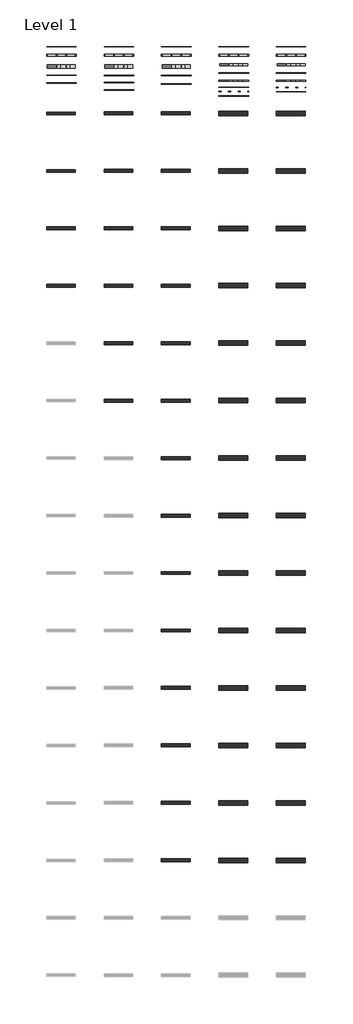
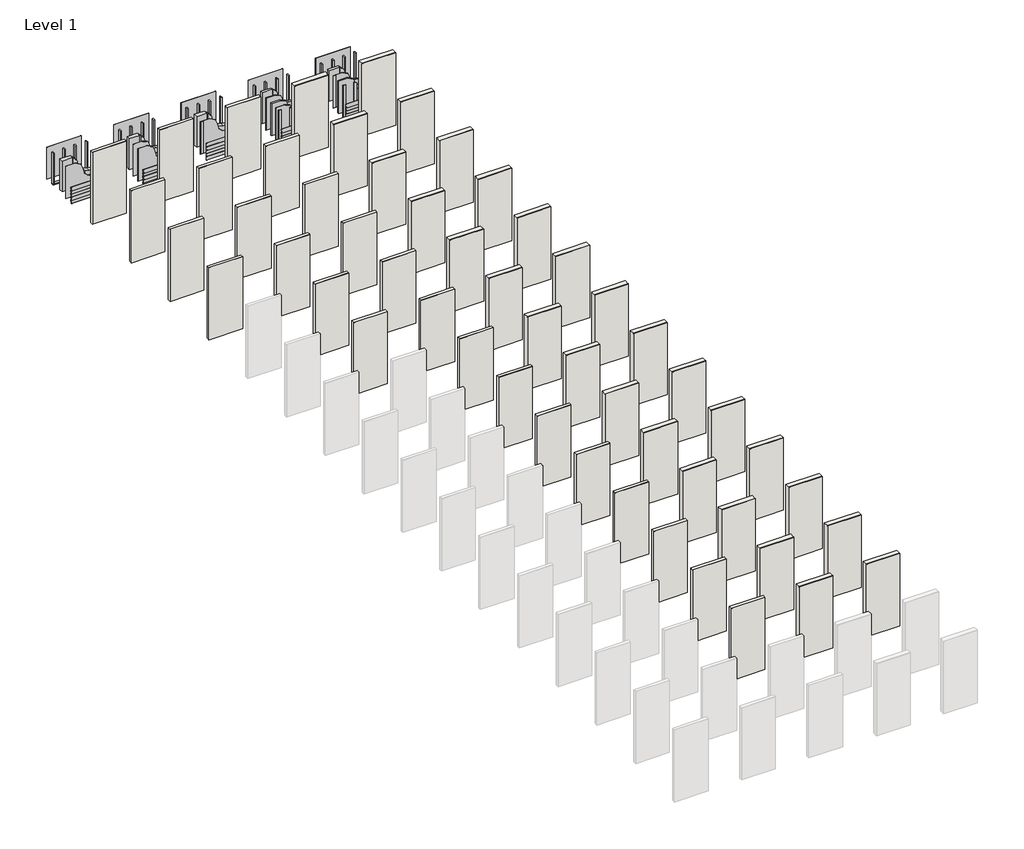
# One storey, part 2 of 2: 52 walls, 33 proxies.
"""IFC4 building model written with IfcOpenShell, lengths in millimetres."""

from ifc_helpers import new_model, si_unit, frame, origin, place, context, project, spatial, polyline, outline, extrude, transform, mapped, element, save
from components import drywall_drywall_9ad1a81a, insulation_insulation_886ea66a, insulation1_insulation_c7675874, insulation2_insulation_0980dc73, insulation3_insulation_35de20be, insulation4_insulation_4921b148, siding_siding_1389b54d, siding1_siding_c6f08992, siding2_siding_21e39ed7, siding3_siding_c55cce45, siding4_siding_1c0db46d, wrb_wrb_ac3679c3, wrb1_wrb_f76ab0a9, wrb10_wrb_b7e937df, wrb11_wrb_521c71ec, wrb12_wrb_24edb861, wrb2_wrb_4205755c, wrb4_wrb_b7f00702, wrb6_wrb_b78c85d5, wrb7_wrb_41caa409, wood_framing_wood_framing_a479036c, wood_framing1_wood_framing_6a745cfe, wood_framing2_wood_framing_20de2fae

model = new_model("IFC4")

# Units and contexts
model_context = context("Model", 3, world=origin())
ifc_project = project(units=[si_unit("LENGTHUNIT", "METRE", prefix="MILLI")], contexts=[model_context])

# Site, building, storey
site = spatial("IfcSite", under=ifc_project)
building = spatial("IfcBuilding", under=site)
storey = spatial("IfcBuildingStorey", under=building, Name="Level 1", Elevation=0.0)

# Proxies
placement = place(None, origin())
drywall_drywall_shape = drywall_drywall_9ad1a81a(model_context)
element("IfcBuildingElementProxy", 1, Name="Drywall : Drywall", ObjectType="Drywall : Drywall", at=placement, inside=storey, context=model_context, shape_type="MappedRepresentation", body=[
    mapped(drywall_drywall_shape, transform((-5985.2651148, 30930.9655791, 0.0), x_axis=(1.0, 0.0, 0.0), y_axis=(0.0, 1.0, 0.0), z_axis=(0.0, 0.0, 1.0))),
])
element("IfcBuildingElementProxy", 2, Name="Drywall1 : Drywall", ObjectType="Drywall1 : Drywall", at=placement, inside=storey, context=model_context, shape_type="MappedRepresentation", body=[
    mapped(drywall_drywall_shape, transform((-3546.8651148, 30930.9655791, 0.0), x_axis=(1.0, 0.0, 0.0), y_axis=(0.0, 1.0, 0.0), z_axis=(0.0, 0.0, 1.0))),
])
element("IfcBuildingElementProxy", 3, Name="Drywall2 : Drywall", ObjectType="Drywall2 : Drywall", at=placement, inside=storey, context=model_context, shape_type="MappedRepresentation", body=[
    mapped(drywall_drywall_shape, transform((1329.9348852, 30930.9655791, 0.0), x_axis=(1.0, 0.0, 0.0), y_axis=(0.0, 1.0, 0.0), z_axis=(0.0, 0.0, 1.0))),
])
element("IfcBuildingElementProxy", 4, Name="Drywall3 : Drywall", ObjectType="Drywall3 : Drywall", at=placement, inside=storey, context=model_context, shape_type="MappedRepresentation", body=[
    mapped(drywall_drywall_shape, transform((3768.3348852, 30930.9655791, 0.0), x_axis=(1.0, 0.0, 0.0), y_axis=(0.0, 1.0, 0.0), z_axis=(0.0, 0.0, 1.0))),
])
element("IfcBuildingElementProxy", 5, Name="Drywall4 : Drywall", ObjectType="Drywall4 : Drywall", at=placement, inside=storey, context=model_context, shape_type="MappedRepresentation", body=[
    mapped(drywall_drywall_shape, transform((-1108.4651148, 30930.9655791, 0.0), x_axis=(1.0, 0.0, 0.0), y_axis=(0.0, 1.0, 0.0), z_axis=(0.0, 0.0, 1.0))),
])
insulation_insulation_shape = insulation_insulation_886ea66a(model_context)
element("IfcBuildingElementProxy", 6, Name="Insulation : Insulation", ObjectType="Insulation : Insulation", at=placement, inside=storey, context=model_context, shape_type="MappedRepresentation", body=[
    mapped(insulation_insulation_shape, transform((0.0, 0.0, 0.0), x_axis=(1.0, 0.0, 0.0), y_axis=(0.0, 1.0, 0.0), z_axis=(0.0, 0.0, 1.0))),
])
insulation1_insulation_shape = insulation1_insulation_c7675874(model_context)
element("IfcBuildingElementProxy", 7, Name="Insulation1 : Insulation", ObjectType="Insulation1 : Insulation", at=placement, inside=storey, context=model_context, shape_type="MappedRepresentation", body=[
    mapped(insulation1_insulation_shape, transform((0.0, 0.0, 0.0), x_axis=(1.0, 0.0, 0.0), y_axis=(0.0, 1.0, 0.0), z_axis=(0.0, 0.0, 1.0))),
])
insulation2_insulation_shape = insulation2_insulation_0980dc73(model_context)
element("IfcBuildingElementProxy", 8, Name="Insulation2 : Insulation", ObjectType="Insulation2 : Insulation", at=placement, inside=storey, context=model_context, shape_type="MappedRepresentation", body=[
    mapped(insulation2_insulation_shape, transform((0.0, 0.0, 0.0), x_axis=(1.0, 0.0, 0.0), y_axis=(0.0, 1.0, 0.0), z_axis=(0.0, 0.0, 1.0))),
])
insulation3_insulation_shape = insulation3_insulation_35de20be(model_context)
element("IfcBuildingElementProxy", 9, Name="Insulation3 : Insulation", ObjectType="Insulation3 : Insulation", at=placement, inside=storey, context=model_context, shape_type="MappedRepresentation", body=[
    mapped(insulation3_insulation_shape, transform((0.0, 0.0, 0.0), x_axis=(1.0, 0.0, 0.0), y_axis=(0.0, 1.0, 0.0), z_axis=(0.0, 0.0, 1.0))),
])
insulation4_insulation_shape = insulation4_insulation_4921b148(model_context)
element("IfcBuildingElementProxy", 10, Name="Insulation4 : Insulation", ObjectType="Insulation4 : Insulation", at=placement, inside=storey, context=model_context, shape_type="MappedRepresentation", body=[
    mapped(insulation4_insulation_shape, transform((0.0, 0.0, 0.0), x_axis=(1.0, 0.0, 0.0), y_axis=(0.0, 1.0, 0.0), z_axis=(0.0, 0.0, 1.0))),
])
siding_siding_shape = siding_siding_1389b54d(model_context)
element("IfcBuildingElementProxy", 11, Name="Siding : Siding", ObjectType="Siding : Siding", at=placement, inside=storey, context=model_context, shape_type="MappedRepresentation", body=[
    mapped(siding_siding_shape, transform((0.0, 0.0, 0.0), x_axis=(1.0, 0.0, 0.0), y_axis=(0.0, 1.0, 0.0), z_axis=(0.0, 0.0, 1.0))),
])
siding1_siding_shape = siding1_siding_c6f08992(model_context)
element("IfcBuildingElementProxy", 12, Name="Siding1 : Siding", ObjectType="Siding1 : Siding", at=placement, inside=storey, context=model_context, shape_type="MappedRepresentation", body=[
    mapped(siding1_siding_shape, transform((0.0, -304.8, 0.0), x_axis=(1.0, 0.0, 0.0), y_axis=(0.0, 1.0, 0.0), z_axis=(0.0, 0.0, 1.0))),
])
siding2_siding_shape = siding2_siding_21e39ed7(model_context)
element("IfcBuildingElementProxy", 13, Name="Siding2 : Siding", ObjectType="Siding2 : Siding", at=placement, inside=storey, context=model_context, shape_type="MappedRepresentation", body=[
    mapped(siding2_siding_shape, transform((0.0, -558.8, 0.0), x_axis=(1.0, 0.0, 0.0), y_axis=(0.0, 1.0, 0.0), z_axis=(0.0, 0.0, 1.0))),
])
siding3_siding_shape = siding3_siding_c55cce45(model_context)
element("IfcBuildingElementProxy", 14, Name="Siding3 : Siding", ObjectType="Siding3 : Siding", at=placement, inside=storey, context=model_context, shape_type="MappedRepresentation", body=[
    mapped(siding3_siding_shape, transform((0.0, -381.0, 0.0), x_axis=(1.0, 0.0, 0.0), y_axis=(0.0, 1.0, 0.0), z_axis=(0.0, 0.0, 1.0))),
])
siding4_siding_shape = siding4_siding_1c0db46d(model_context)
element("IfcBuildingElementProxy", 15, Name="Siding4 : Siding", ObjectType="Siding4 : Siding", at=placement, inside=storey, context=model_context, shape_type="MappedRepresentation", body=[
    mapped(siding4_siding_shape, transform((0.0, -50.8, 0.0), x_axis=(1.0, 0.0, 0.0), y_axis=(0.0, 1.0, 0.0), z_axis=(0.0, 0.0, 1.0))),
])
wrb_wrb_shape = wrb_wrb_ac3679c3(model_context)
element("IfcBuildingElementProxy", 16, Name="WRB : WRB", ObjectType="WRB : WRB", at=placement, inside=storey, context=model_context, shape_type="MappedRepresentation", body=[
    mapped(wrb_wrb_shape, transform((-5985.2651148, 30930.9655791, 0.0), x_axis=(1.0, 0.0, 0.0), y_axis=(0.0, 1.0, 0.0), z_axis=(0.0, 0.0, 1.0))),
])
wrb1_wrb_shape = wrb1_wrb_f76ab0a9(model_context)
element("IfcBuildingElementProxy", 17, Name="WRB1 : WRB", ObjectType="WRB1 : WRB", at=placement, inside=storey, context=model_context, shape_type="MappedRepresentation", body=[
    mapped(wrb1_wrb_shape, transform((-5985.2651148, 30930.9655791, 0.0), x_axis=(1.0, 0.0, 0.0), y_axis=(0.0, 1.0, 0.0), z_axis=(0.0, 0.0, 1.0))),
])
wrb10_wrb_shape = wrb10_wrb_b7e937df(model_context)
element("IfcBuildingElementProxy", 18, Name="WRB10 : WRB", ObjectType="WRB10 : WRB", at=placement, inside=storey, context=model_context, shape_type="MappedRepresentation", body=[
    mapped(wrb10_wrb_shape, transform((-1108.4651148, 30880.1655791, 0.0), x_axis=(1.0, 0.0, 0.0), y_axis=(0.0, 1.0, 0.0), z_axis=(0.0, 0.0, 1.0))),
])
wrb11_wrb_shape = wrb11_wrb_521c71ec(model_context)
element("IfcBuildingElementProxy", 19, Name="WRB11 : WRB", ObjectType="WRB11 : WRB", at=placement, inside=storey, context=model_context, shape_type="MappedRepresentation", body=[
    mapped(wrb11_wrb_shape, transform((-3546.8651148, 30930.9655791, 0.0), x_axis=(1.0, 0.0, 0.0), y_axis=(0.0, 1.0, 0.0), z_axis=(0.0, 0.0, 1.0))),
])
wrb12_wrb_shape = wrb12_wrb_24edb861(model_context)
element("IfcBuildingElementProxy", 20, Name="WRB12 : WRB", ObjectType="WRB12 : WRB", at=placement, inside=storey, context=model_context, shape_type="MappedRepresentation", body=[
    mapped(wrb12_wrb_shape, transform((-1108.4651148, 30981.7655791, 0.0), x_axis=(1.0, 0.0, 0.0), y_axis=(0.0, 1.0, 0.0), z_axis=(0.0, 0.0, 1.0))),
])
wrb2_wrb_shape = wrb2_wrb_4205755c(model_context)
element("IfcBuildingElementProxy", 21, Name="WRB2 : WRB", ObjectType="WRB2 : WRB", at=placement, inside=storey, context=model_context, shape_type="MappedRepresentation", body=[
    mapped(wrb2_wrb_shape, transform((-5985.2651148, 30930.9655791, 0.0), x_axis=(1.0, 0.0, 0.0), y_axis=(0.0, 1.0, 0.0), z_axis=(0.0, 0.0, 1.0))),
])
element("IfcBuildingElementProxy", 22, Name="WRB3 : WRB", ObjectType="WRB3 : WRB", at=placement, inside=storey, context=model_context, shape_type="MappedRepresentation", body=[
    mapped(wrb1_wrb_shape, transform((-1108.4651148, 30727.7655791, 0.0), x_axis=(1.0, 0.0, 0.0), y_axis=(0.0, 1.0, 0.0), z_axis=(0.0, 0.0, 1.0))),
])
wrb4_wrb_shape = wrb4_wrb_b7f00702(model_context)
element("IfcBuildingElementProxy", 23, Name="WRB4 : WRB", ObjectType="WRB4 : WRB", at=placement, inside=storey, context=model_context, shape_type="MappedRepresentation", body=[
    mapped(wrb4_wrb_shape, transform((-3546.8651148, 30930.9655791, 0.0), x_axis=(1.0, 0.0, 0.0), y_axis=(0.0, 1.0, 0.0), z_axis=(0.0, 0.0, 1.0))),
])
element("IfcBuildingElementProxy", 24, Name="WRB5 : WRB", ObjectType="WRB5 : WRB", at=placement, inside=storey, context=model_context, shape_type="MappedRepresentation", body=[
    mapped(wrb10_wrb_shape, transform((-3546.8651148, 30702.3655791, 0.0), x_axis=(1.0, 0.0, 0.0), y_axis=(0.0, 1.0, 0.0), z_axis=(0.0, 0.0, 1.0))),
])
wrb6_wrb_shape = wrb6_wrb_b78c85d5(model_context)
element("IfcBuildingElementProxy", 25, Name="WRB6 : WRB", ObjectType="WRB6 : WRB", at=placement, inside=storey, context=model_context, shape_type="MappedRepresentation", body=[
    mapped(wrb6_wrb_shape, transform((-3546.8651148, 30930.9655791, 0.0), x_axis=(1.0, 0.0, 0.0), y_axis=(0.0, 1.0, 0.0), z_axis=(0.0, 0.0, 1.0))),
])
wrb7_wrb_shape = wrb7_wrb_41caa409(model_context)
element("IfcBuildingElementProxy", 26, Name="WRB7 : WRB", ObjectType="WRB7 : WRB", at=placement, inside=storey, context=model_context, shape_type="MappedRepresentation", body=[
    mapped(wrb7_wrb_shape, transform((-5985.2651148, 30880.1655791, 0.0), x_axis=(1.0, 0.0, 0.0), y_axis=(0.0, 1.0, 0.0), z_axis=(0.0, 0.0, 1.0))),
])
element("IfcBuildingElementProxy", 27, Name="WRB8 : WRB", ObjectType="WRB8 : WRB", at=placement, inside=storey, context=model_context, shape_type="MappedRepresentation", body=[
    mapped(wrb12_wrb_shape, transform((-5985.2651148, 30880.1655791, 0.0), x_axis=(1.0, 0.0, 0.0), y_axis=(0.0, 1.0, 0.0), z_axis=(0.0, 0.0, 1.0))),
])
element("IfcBuildingElementProxy", 28, Name="WRB9 : WRB", ObjectType="WRB9 : WRB", at=placement, inside=storey, context=model_context, shape_type="MappedRepresentation", body=[
    mapped(wrb7_wrb_shape, transform((-1108.4651148, 30981.7655791, 0.0), x_axis=(1.0, 0.0, 0.0), y_axis=(0.0, 1.0, 0.0), z_axis=(0.0, 0.0, 1.0))),
])
wood_framing_wood_framing_shape = wood_framing_wood_framing_a479036c(model_context)
element("IfcBuildingElementProxy", 29, Name="Wood Framing : Wood Framing", ObjectType="Wood Framing : Wood Framing", at=placement, inside=storey, context=model_context, shape_type="MappedRepresentation", body=[
    mapped(wood_framing_wood_framing_shape, transform((0.0, 0.0, 0.0), x_axis=(1.0, 0.0, 0.0), y_axis=(0.0, 1.0, 0.0), z_axis=(0.0, 0.0, 1.0))),
])
wood_framing1_wood_framing_shape = wood_framing1_wood_framing_6a745cfe(model_context)
element("IfcBuildingElementProxy", 30, Name="Wood Framing1 : Wood Framing", ObjectType="Wood Framing1 : Wood Framing", at=placement, inside=storey, context=model_context, shape_type="MappedRepresentation", body=[
    mapped(wood_framing1_wood_framing_shape, transform((0.0, 0.0, 0.0), x_axis=(1.0, 0.0, 0.0), y_axis=(0.0, 1.0, 0.0), z_axis=(0.0, 0.0, 1.0))),
])
wood_framing2_wood_framing_shape = wood_framing2_wood_framing_20de2fae(model_context)
element("IfcBuildingElementProxy", 31, Name="Wood Framing2 : Wood Framing", ObjectType="Wood Framing2 : Wood Framing", at=placement, inside=storey, context=model_context, shape_type="MappedRepresentation", body=[
    mapped(wood_framing2_wood_framing_shape, transform((-3546.8651148, 30930.9655791, 0.0), x_axis=(1.0, 0.0, 0.0), y_axis=(0.0, 1.0, 0.0), z_axis=(0.0, 0.0, 1.0))),
])
element("IfcBuildingElementProxy", 32, Name="Wood Framing3 : Wood Framing", ObjectType="Wood Framing3 : Wood Framing", at=placement, inside=storey, context=model_context, shape_type="MappedRepresentation", body=[
    mapped(wood_framing2_wood_framing_shape, transform((-1108.4651148, 30930.9655791, 0.0), x_axis=(1.0, 0.0, 0.0), y_axis=(0.0, 1.0, 0.0), z_axis=(0.0, 0.0, 1.0))),
])
element("IfcBuildingElementProxy", 33, Name="Wood Framing4 : Wood Framing", ObjectType="Wood Framing4 : Wood Framing", at=placement, inside=storey, context=model_context, shape_type="MappedRepresentation", body=[
    mapped(wood_framing1_wood_framing_shape, transform((2438.4, 0.0, 0.0), x_axis=(1.0, 0.0, 0.0), y_axis=(0.0, 1.0, 0.0), z_axis=(0.0, 0.0, 1.0))),
])

# Walls
element("IfcWall", 34, ObjectType="Exterior - 2x4 Direct to Stud - LP SmartSide Lap Siding - 38 Series Cedar Texture Lap (Strand) - 5.84", at=placement, inside=storey, context=model_context, shape_type="SweptSolid", body=[
    extrude(outline(polyline([(32309.1411435, 0.0), (32309.1411435, 2771.775), (32317.1421435, 2771.775), (32418.7421435, 2771.775), (32418.7421435, 0.0), (32317.1421435, 0.0), (32309.1411435, 0.0)])), frame((-5100.4179718, 0.0, 0.0), z_axis=(1.0, 0.0, 0.0), x_axis=(0.0, 1.0, 0.0)), (0.0, 0.0, 1.0), 1219.2),
])
element("IfcWall", 35, ObjectType="Exterior - 2x4 Direct to Stud - LP SmartSide Lap Siding - 38 Series Cedar Texture Lap (Strand) - 6.84", at=placement, inside=storey, context=model_context, shape_type="SweptSolid", body=[
    extrude(outline(polyline([(29870.7411435, 0.0), (29870.7411435, 2771.775), (29878.7421435, 2771.775), (29980.3421435, 2771.775), (29980.3421435, 0.0), (29878.7421435, 0.0), (29870.7411435, 0.0)])), frame((-5100.4179718, 0.0, 0.0), z_axis=(1.0, 0.0, 0.0), x_axis=(0.0, 1.0, 0.0)), (0.0, 0.0, 1.0), 1219.2),
])
element("IfcWall", 36, ObjectType="Exterior - 2x4 Direct to Stud - LP SmartSide Lap Siding - 38 Series Cedar Texture Lap (Strand) - 7.84", at=placement, inside=storey, context=model_context, shape_type="SweptSolid", body=[
    extrude(outline(polyline([(27432.3411435, 0.0), (27432.3411435, 2771.775), (27440.3421435, 2771.775), (27541.9421435, 2771.775), (27541.9421435, 0.0), (27440.3421435, 0.0), (27432.3411435, 0.0)])), frame((-5100.4179718, 0.0, 0.0), z_axis=(1.0, 0.0, 0.0), x_axis=(0.0, 1.0, 0.0)), (0.0, 0.0, 1.0), 1219.2),
])
element("IfcWall", 37, ObjectType="Exterior - 2x4 Direct to Stud - LP SmartSide Lap Siding - 38 Series Cedar Texture Lap (Strand) - 11.84", at=placement, inside=storey, context=model_context, shape_type="SweptSolid", body=[
    extrude(outline(polyline([(24993.9411435, 0.0), (24993.9411435, 2771.775), (25001.9421435, 2771.775), (25103.5421435, 2771.775), (25103.5421435, 0.0), (25001.9421435, 0.0), (24993.9411435, 0.0)])), frame((-5100.4179718, 0.0, 0.0), z_axis=(1.0, 0.0, 0.0), x_axis=(0.0, 1.0, 0.0)), (0.0, 0.0, 1.0), 1219.2),
])
element("IfcWall", 38, ObjectType="Exterior - 2x4 w/WSP - LP SmartSide Lap Siding - 38 Series Cedar Texture Lap (Strand) - 5.84", at=placement, inside=storey, context=model_context, shape_type="SweptSolid", body=[
    extrude(outline(polyline([(32303.5848935, 0.0), (32303.5848935, 2771.775), (32311.5858935, 2771.775), (32424.2983935, 2771.775), (32424.2983935, 0.0), (32311.5858935, 0.0), (32303.5848935, 0.0)])), frame((-2662.0179718, 0.0, 0.0), z_axis=(1.0, 0.0, 0.0), x_axis=(0.0, 1.0, 0.0)), (0.0, 0.0, 1.0), 1219.2),
])
element("IfcWall", 39, ObjectType="Exterior - 2x4 w/WSP - LP SmartSide Lap Siding - 38 Series Cedar Texture Lap (Strand) - 6.84", at=placement, inside=storey, context=model_context, shape_type="SweptSolid", body=[
    extrude(outline(polyline([(29865.1848935, 0.0), (29865.1848935, 2771.775), (29873.1858935, 2771.775), (29985.8983935, 2771.775), (29985.8983935, 0.0), (29873.1858935, 0.0), (29865.1848935, 0.0)])), frame((-2662.0179718, 0.0, 0.0), z_axis=(1.0, 0.0, 0.0), x_axis=(0.0, 1.0, 0.0)), (0.0, 0.0, 1.0), 1219.2),
])
element("IfcWall", 40, ObjectType="Exterior - 2x4 w/WSP - LP SmartSide Lap Siding - 38 Series Cedar Texture Lap (Strand) - 7.84", at=placement, inside=storey, context=model_context, shape_type="SweptSolid", body=[
    extrude(outline(polyline([(27426.7848935, 0.0), (27426.7848935, 2771.775), (27434.7858935, 2771.775), (27547.4983935, 2771.775), (27547.4983935, 0.0), (27434.7858935, 0.0), (27426.7848935, 0.0)])), frame((-2662.0179718, 0.0, 0.0), z_axis=(1.0, 0.0, 0.0), x_axis=(0.0, 1.0, 0.0)), (0.0, 0.0, 1.0), 1219.2),
])
element("IfcWall", 41, ObjectType="Exterior - 2x4 w/WSP - LP SmartSide Lap Siding - 38 Series Cedar Texture Lap (Strand) - 11.84", at=placement, inside=storey, context=model_context, shape_type="SweptSolid", body=[
    extrude(outline(polyline([(24988.3848935, 0.0), (24988.3848935, 2771.775), (24996.3858935, 2771.775), (25109.0983935, 2771.775), (25109.0983935, 0.0), (24996.3858935, 0.0), (24988.3848935, 0.0)])), frame((-2662.0179718, 0.0, 0.0), z_axis=(1.0, 0.0, 0.0), x_axis=(0.0, 1.0, 0.0)), (0.0, 0.0, 1.0), 1219.2),
])
element("IfcWall", 42, ObjectType="Exterior - 2x4 w/WSP - LP SmartSide Lap Siding - 76 Series Cedar Texture Lap (Strand) - 5.84", at=placement, inside=storey, context=model_context, shape_type="SweptSolid", body=[
    extrude(outline(polyline([(22549.2228935, 0.0), (22549.2228935, 2771.775), (22558.7478935, 2771.775), (22671.4603935, 2771.775), (22671.4603935, 0.0), (22558.7478935, 0.0), (22549.2228935, 0.0)])), frame((-2662.0179718, 0.0, 0.0), z_axis=(1.0, 0.0, 0.0), x_axis=(0.0, 1.0, 0.0)), (0.0, 0.0, 1.0), 1219.2),
])
element("IfcWall", 43, ObjectType="Exterior - 2x4 w/WSP - LP SmartSide Lap Siding - 76 Series Cedar Texture Lap (Strand) - 7.84", at=placement, inside=storey, context=model_context, shape_type="SweptSolid", body=[
    extrude(outline(polyline([(20110.8228935, 0.0), (20110.8228935, 2771.775), (20120.3478935, 2771.775), (20233.0603935, 2771.775), (20233.0603935, 0.0), (20120.3478935, 0.0), (20110.8228935, 0.0)])), frame((-2662.0179718, 0.0, 0.0), z_axis=(1.0, 0.0, 0.0), x_axis=(0.0, 1.0, 0.0)), (0.0, 0.0, 1.0), 1219.2),
])
element("IfcWall", 44, ObjectType="Exterior - 2x4 w/Exterior Insulation - LP SmartSide Lap Siding - 38 Series Cedar Texture Lap (Strand) - 5.84", at=placement, inside=storey, context=model_context, shape_type="SweptSolid", body=[
    extrude(outline(polyline([(32268.6598935, 0.0), (32268.6598935, 2771.775), (32276.6608935, 2771.775), (32295.7108935, 2771.775), (32459.2233935, 2771.775), (32459.2233935, 0.0), (32295.7108935, 0.0), (32276.6608935, 0.0), (32268.6598935, 0.0)])), frame((2214.7820282, 0.0, 0.0), z_axis=(1.0, 0.0, 0.0), x_axis=(0.0, 1.0, 0.0)), (0.0, 0.0, 1.0), 1219.2),
])
element("IfcWall", 45, ObjectType="Exterior - 2x4 w/Exterior Insulation - LP SmartSide Lap Siding - 38 Series Cedar Texture Lap (Strand) - 6.84", at=placement, inside=storey, context=model_context, shape_type="SweptSolid", body=[
    extrude(outline(polyline([(29830.2598935, 0.0), (29830.2598935, 2771.775), (29838.2608935, 2771.775), (29857.3108935, 2771.775), (30020.8233935, 2771.775), (30020.8233935, 0.0), (29857.3108935, 0.0), (29838.2608935, 0.0), (29830.2598935, 0.0)])), frame((2214.7820282, 0.0, 0.0), z_axis=(1.0, 0.0, 0.0), x_axis=(0.0, 1.0, 0.0)), (0.0, 0.0, 1.0), 1219.2),
])
element("IfcWall", 46, ObjectType="Exterior - 2x4 w/Exterior Insulation - LP SmartSide Lap Siding - 38 Series Cedar Texture Lap (Strand) - 7.84", at=placement, inside=storey, context=model_context, shape_type="SweptSolid", body=[
    extrude(outline(polyline([(27391.8598935, 0.0), (27391.8598935, 2771.775), (27399.8608935, 2771.775), (27418.9108935, 2771.775), (27582.4233935, 2771.775), (27582.4233935, 0.0), (27418.9108935, 0.0), (27399.8608935, 0.0), (27391.8598935, 0.0)])), frame((2214.7820282, 0.0, 0.0), z_axis=(1.0, 0.0, 0.0), x_axis=(0.0, 1.0, 0.0)), (0.0, 0.0, 1.0), 1219.2),
])
element("IfcWall", 47, ObjectType="Exterior - 2x4 w/Exterior Insulation - LP SmartSide Lap Siding - 38 Series Cedar Texture Lap (Strand) - 11.84", at=placement, inside=storey, context=model_context, shape_type="SweptSolid", body=[
    extrude(outline(polyline([(24953.4598935, 0.0), (24953.4598935, 2771.775), (24961.4608935, 2771.775), (24980.5108935, 2771.775), (25144.0233935, 2771.775), (25144.0233935, 0.0), (24980.5108935, 0.0), (24961.4608935, 0.0), (24953.4598935, 0.0)])), frame((2214.7820282, 0.0, 0.0), z_axis=(1.0, 0.0, 0.0), x_axis=(0.0, 1.0, 0.0)), (0.0, 0.0, 1.0), 1219.2),
])
element("IfcWall", 48, ObjectType="Exterior - 2x4 w/Exterior Insulation - LP SmartSide Lap Siding - 76 Series Cedar Texture Lap (Strand) - 5.84", at=placement, inside=storey, context=model_context, shape_type="SweptSolid", body=[
    extrude(outline(polyline([(22514.2978935, 0.0), (22514.2978935, 2771.775), (22523.8228935, 2771.775), (22542.8728935, 2771.775), (22706.3853935, 2771.775), (22706.3853935, 0.0), (22542.8728935, 0.0), (22523.8228935, 0.0), (22514.2978935, 0.0)])), frame((2214.7820282, 0.0, 0.0), z_axis=(1.0, 0.0, 0.0), x_axis=(0.0, 1.0, 0.0)), (0.0, 0.0, 1.0), 1219.2),
])
element("IfcWall", 49, ObjectType="Exterior - 2x4 w/Exterior Insulation - LP SmartSide Lap Siding - 76 Series Cedar Texture Lap (Strand) - 7.84", at=placement, inside=storey, context=model_context, shape_type="SweptSolid", body=[
    extrude(outline(polyline([(20075.8978935, 0.0), (20075.8978935, 2771.775), (20085.4228935, 2771.775), (20104.4728935, 2771.775), (20267.9853935, 2771.775), (20267.9853935, 0.0), (20104.4728935, 0.0), (20085.4228935, 0.0), (20075.8978935, 0.0)])), frame((2214.7820282, 0.0, 0.0), z_axis=(1.0, 0.0, 0.0), x_axis=(0.0, 1.0, 0.0)), (0.0, 0.0, 1.0), 1219.2),
])
element("IfcWall", 50, ObjectType="Exterior - 2x4 w/Exterior Insulation - LP SmartSide Lap Siding - 76 Series Cedar Texture Lap (Strand) - 11.84", at=placement, inside=storey, context=model_context, shape_type="SweptSolid", body=[
    extrude(outline(polyline([(17637.4978935, 0.0), (17637.4978935, 2771.775), (17647.0228935, 2771.775), (17666.0728935, 2771.775), (17829.5853935, 2771.775), (17829.5853935, 0.0), (17666.0728935, 0.0), (17647.0228935, 0.0), (17637.4978935, 0.0)])), frame((2214.7820282, 0.0, 0.0), z_axis=(1.0, 0.0, 0.0), x_axis=(0.0, 1.0, 0.0)), (0.0, 0.0, 1.0), 1219.2),
])
element("IfcWall", 51, ObjectType="Exterior - 2x4 w/Exterior Insulation - LP SmartSide Lap Siding - 76 Series Cedar Texture Lap (Fiber) - 5.84", at=placement, inside=storey, context=model_context, shape_type="SweptSolid", body=[
    extrude(outline(polyline([(15199.0978935, 0.0), (15199.0978935, 2771.775), (15208.6228935, 2771.775), (15227.6728935, 2771.775), (15391.1853935, 2771.775), (15391.1853935, 0.0), (15227.6728935, 0.0), (15208.6228935, 0.0), (15199.0978935, 0.0)])), frame((2214.7820282, 0.0, 0.0), z_axis=(1.0, 0.0, 0.0), x_axis=(0.0, 1.0, 0.0)), (0.0, 0.0, 1.0), 1219.2),
])
element("IfcWall", 52, ObjectType="Exterior - 2x4 w/Exterior Insulation - LP SmartSide Lap Siding - 76 Series Cedar Texture Lap (Fiber) - 7.84", at=placement, inside=storey, context=model_context, shape_type="SweptSolid", body=[
    extrude(outline(polyline([(12760.6978935, 0.0), (12760.6978935, 2771.775), (12770.2228935, 2771.775), (12789.2728935, 2771.775), (12952.7853935, 2771.775), (12952.7853935, 0.0), (12789.2728935, 0.0), (12770.2228935, 0.0), (12760.6978935, 0.0)])), frame((2214.7820282, 0.0, 0.0), z_axis=(1.0, 0.0, 0.0), x_axis=(0.0, 1.0, 0.0)), (0.0, 0.0, 1.0), 1219.2),
])
element("IfcWall", 53, ObjectType="Exterior - 2x4 w/Exterior Insulation - LP SmartSide Lap Siding - 76 Series Cedar Texture Lap (Fiber) - 9.47", at=placement, inside=storey, context=model_context, shape_type="SweptSolid", body=[
    extrude(outline(polyline([(10322.2978935, 0.0), (10322.2978935, 2771.775), (10331.8228935, 2771.775), (10350.8728935, 2771.775), (10514.3853935, 2771.775), (10514.3853935, 0.0), (10350.8728935, 0.0), (10331.8228935, 0.0), (10322.2978935, 0.0)])), frame((2214.7820282, 0.0, 0.0), z_axis=(1.0, 0.0, 0.0), x_axis=(0.0, 1.0, 0.0)), (0.0, 0.0, 1.0), 1219.2),
])
element("IfcWall", 54, ObjectType="Exterior - 2x4 w/Exterior Insulation - LP SmartSide Lap Siding - 76 Series Cedar Texture Lap (Fiber) - 11.84", at=placement, inside=storey, context=model_context, shape_type="SweptSolid", body=[
    extrude(outline(polyline([(7883.8978935, 0.0), (7883.8978935, 2771.775), (7893.4228935, 2771.775), (7912.4728935, 2771.775), (8075.9853935, 2771.775), (8075.9853935, 0.0), (7912.4728935, 0.0), (7893.4228935, 0.0), (7883.8978935, 0.0)])), frame((2214.7820282, 0.0, 0.0), z_axis=(1.0, 0.0, 0.0), x_axis=(0.0, 1.0, 0.0)), (0.0, 0.0, 1.0), 1219.2),
])
element("IfcWall", 55, ObjectType="Exterior - 2x4 w/Exterior Insulation - LP SmartSide Lap Siding - 76 Series SmartLock Cedar Texture Lap (Strand) - 7.84", at=placement, inside=storey, context=model_context, shape_type="SweptSolid", body=[
    extrude(outline(polyline([(5445.4978935, 0.0), (5445.4978935, 2771.775), (5455.0228935, 2771.775), (5474.0728935, 2771.775), (5637.5853935, 2771.775), (5637.5853935, 0.0), (5474.0728935, 0.0), (5455.0228935, 0.0), (5445.4978935, 0.0)])), frame((2214.7820282, 0.0, 0.0), z_axis=(1.0, 0.0, 0.0), x_axis=(0.0, 1.0, 0.0)), (0.0, 0.0, 1.0), 1219.2),
])
element("IfcWall", 56, ObjectType="Exterior - 2x4 w/Exterior Insulation - LP SmartSide Lap Siding - 120 Series Self-Aligning Cedar Texture Lap (Fiber) - 7.92", at=placement, inside=storey, context=model_context, shape_type="SweptSolid", body=[
    extrude(outline(polyline([(3006.1453935, 0.0), (3006.1453935, 2771.775), (3017.5753935, 2771.775), (3036.6253935, 2771.775), (3200.1378935, 2771.775), (3200.1378935, 0.0), (3036.6253935, 0.0), (3017.5753935, 0.0), (3006.1453935, 0.0)])), frame((2214.7820282, 0.0, 0.0), z_axis=(1.0, 0.0, 0.0), x_axis=(0.0, 1.0, 0.0)), (0.0, 0.0, 1.0), 1219.2),
])
element("IfcWall", 57, ObjectType="Exterior - 2x4 w/Exterior Insulation - LP SmartSide Lap Siding - 38 Series Smooth Finish Lap (Strand) - 5.84", at=placement, inside=storey, context=model_context, shape_type="SweptSolid", body=[
    extrude(outline(polyline([(569.4598935, 0.0), (569.4598935, 2771.775), (577.4608935, 2771.775), (596.5108935, 2771.775), (760.0233935, 2771.775), (760.0233935, 0.0), (596.5108935, 0.0), (577.4608935, 0.0), (569.4598935, 0.0)])), frame((2214.7820282, 0.0, 0.0), z_axis=(1.0, 0.0, 0.0), x_axis=(0.0, 1.0, 0.0)), (0.0, 0.0, 1.0), 1219.2),
])
element("IfcWall", 58, ObjectType="Exterior - 2x4 w/Exterior Insulation & WeatherLogic® - LP SmartSide Lap Siding - 38 Series Cedar Texture Lap (Strand) - 5.84", at=placement, inside=storey, context=model_context, shape_type="SweptSolid", body=[
    extrude(outline(polyline([(32268.6598935, 0.0), (32268.6598935, 2771.775), (32276.6608935, 2771.775), (32295.7108935, 2771.775), (32459.2233935, 2771.775), (32459.2233935, 0.0), (32295.7108935, 0.0), (32276.6608935, 0.0), (32268.6598935, 0.0)])), frame((4653.1820282, 0.0, 0.0), z_axis=(1.0, 0.0, 0.0), x_axis=(0.0, 1.0, 0.0)), (0.0, 0.0, 1.0), 1219.2),
])
element("IfcWall", 59, ObjectType="Exterior - 2x4 w/Exterior Insulation & WeatherLogic® - LP SmartSide Lap Siding - 38 Series Cedar Texture Lap (Strand) - 6.84", at=placement, inside=storey, context=model_context, shape_type="SweptSolid", body=[
    extrude(outline(polyline([(29830.2598935, 0.0), (29830.2598935, 2771.775), (29838.2608935, 2771.775), (29857.3108935, 2771.775), (30020.8233935, 2771.775), (30020.8233935, 0.0), (29857.3108935, 0.0), (29838.2608935, 0.0), (29830.2598935, 0.0)])), frame((4653.1820282, 0.0, 0.0), z_axis=(1.0, 0.0, 0.0), x_axis=(0.0, 1.0, 0.0)), (0.0, 0.0, 1.0), 1219.2),
])
element("IfcWall", 60, ObjectType="Exterior - 2x4 w/Exterior Insulation & WeatherLogic® - LP SmartSide Lap Siding - 38 Series Cedar Texture Lap (Strand) - 7.84", at=placement, inside=storey, context=model_context, shape_type="SweptSolid", body=[
    extrude(outline(polyline([(27391.8598935, 0.0), (27391.8598935, 2771.775), (27399.8608935, 2771.775), (27418.9108935, 2771.775), (27582.4233935, 2771.775), (27582.4233935, 0.0), (27418.9108935, 0.0), (27399.8608935, 0.0), (27391.8598935, 0.0)])), frame((4653.1820282, 0.0, 0.0), z_axis=(1.0, 0.0, 0.0), x_axis=(0.0, 1.0, 0.0)), (0.0, 0.0, 1.0), 1219.2),
])
element("IfcWall", 61, ObjectType="Exterior - 2x4 w/Exterior Insulation & WeatherLogic® - LP SmartSide Lap Siding - 38 Series Cedar Texture Lap (Strand) - 11.84", at=placement, inside=storey, context=model_context, shape_type="SweptSolid", body=[
    extrude(outline(polyline([(24953.4598935, 0.0), (24953.4598935, 2771.775), (24961.4608935, 2771.775), (24980.5108935, 2771.775), (25144.0233935, 2771.775), (25144.0233935, 0.0), (24980.5108935, 0.0), (24961.4608935, 0.0), (24953.4598935, 0.0)])), frame((4653.1820282, 0.0, 0.0), z_axis=(1.0, 0.0, 0.0), x_axis=(0.0, 1.0, 0.0)), (0.0, 0.0, 1.0), 1219.2),
])
element("IfcWall", 62, ObjectType="Exterior - 2x4 w/Exterior Insulation & WeatherLogic® - LP SmartSide Lap Siding - 76 Series Cedar Texture Lap (Strand) - 5.84", at=placement, inside=storey, context=model_context, shape_type="SweptSolid", body=[
    extrude(outline(polyline([(22514.2978935, 0.0), (22514.2978935, 2771.775), (22523.8228935, 2771.775), (22542.8728935, 2771.775), (22706.3853935, 2771.775), (22706.3853935, 0.0), (22542.8728935, 0.0), (22523.8228935, 0.0), (22514.2978935, 0.0)])), frame((4653.1820282, 0.0, 0.0), z_axis=(1.0, 0.0, 0.0), x_axis=(0.0, 1.0, 0.0)), (0.0, 0.0, 1.0), 1219.2),
])
element("IfcWall", 63, ObjectType="Exterior - 2x4 w/Exterior Insulation & WeatherLogic® - LP SmartSide Lap Siding - 76 Series Cedar Texture Lap (Strand) - 7.84", at=placement, inside=storey, context=model_context, shape_type="SweptSolid", body=[
    extrude(outline(polyline([(20075.8978935, 0.0), (20075.8978935, 2771.775), (20085.4228935, 2771.775), (20104.4728935, 2771.775), (20267.9853935, 2771.775), (20267.9853935, 0.0), (20104.4728935, 0.0), (20085.4228935, 0.0), (20075.8978935, 0.0)])), frame((4653.1820282, 0.0, 0.0), z_axis=(1.0, 0.0, 0.0), x_axis=(0.0, 1.0, 0.0)), (0.0, 0.0, 1.0), 1219.2),
])
element("IfcWall", 64, ObjectType="Exterior - 2x4 w/Exterior Insulation & WeatherLogic® - LP SmartSide Lap Siding - 76 Series Cedar Texture Lap (Strand) - 11.84", at=placement, inside=storey, context=model_context, shape_type="SweptSolid", body=[
    extrude(outline(polyline([(17637.4978935, 0.0), (17637.4978935, 2771.775), (17647.0228935, 2771.775), (17666.0728935, 2771.775), (17829.5853935, 2771.775), (17829.5853935, 0.0), (17666.0728935, 0.0), (17647.0228935, 0.0), (17637.4978935, 0.0)])), frame((4653.1820282, 0.0, 0.0), z_axis=(1.0, 0.0, 0.0), x_axis=(0.0, 1.0, 0.0)), (0.0, 0.0, 1.0), 1219.2),
])
element("IfcWall", 65, ObjectType="Exterior - 2x4 w/Exterior Insulation & WeatherLogic® - LP SmartSide Lap Siding - 76 Series Cedar Texture Lap (Fiber) - 5.84", at=placement, inside=storey, context=model_context, shape_type="SweptSolid", body=[
    extrude(outline(polyline([(15199.0978935, 0.0), (15199.0978935, 2771.775), (15208.6228935, 2771.775), (15227.6728935, 2771.775), (15391.1853935, 2771.775), (15391.1853935, 0.0), (15227.6728935, 0.0), (15208.6228935, 0.0), (15199.0978935, 0.0)])), frame((4653.1820282, 0.0, 0.0), z_axis=(1.0, 0.0, 0.0), x_axis=(0.0, 1.0, 0.0)), (0.0, 0.0, 1.0), 1219.2),
])
element("IfcWall", 66, ObjectType="Exterior - 2x4 w/Exterior Insulation & WeatherLogic® - LP SmartSide Lap Siding - 76 Series Cedar Texture Lap (Fiber) - 7.84", at=placement, inside=storey, context=model_context, shape_type="SweptSolid", body=[
    extrude(outline(polyline([(12760.6978935, 0.0), (12760.6978935, 2771.775), (12770.2228935, 2771.775), (12789.2728935, 2771.775), (12952.7853935, 2771.775), (12952.7853935, 0.0), (12789.2728935, 0.0), (12770.2228935, 0.0), (12760.6978935, 0.0)])), frame((4653.1820282, 0.0, 0.0), z_axis=(1.0, 0.0, 0.0), x_axis=(0.0, 1.0, 0.0)), (0.0, 0.0, 1.0), 1219.2),
])
element("IfcWall", 67, ObjectType="Exterior - 2x4 w/Exterior Insulation & WeatherLogic® - LP SmartSide Lap Siding - 76 Series Cedar Texture Lap (Fiber) - 9.47", at=placement, inside=storey, context=model_context, shape_type="SweptSolid", body=[
    extrude(outline(polyline([(10322.2978935, 0.0), (10322.2978935, 2771.775), (10331.8228935, 2771.775), (10350.8728935, 2771.775), (10514.3853935, 2771.775), (10514.3853935, 0.0), (10350.8728935, 0.0), (10331.8228935, 0.0), (10322.2978935, 0.0)])), frame((4653.1820282, 0.0, 0.0), z_axis=(1.0, 0.0, 0.0), x_axis=(0.0, 1.0, 0.0)), (0.0, 0.0, 1.0), 1219.2),
])
element("IfcWall", 68, ObjectType="Exterior - 2x4 w/Exterior Insulation & WeatherLogic® - LP SmartSide Lap Siding - 76 Series Cedar Texture Lap (Fiber) - 11.84", at=placement, inside=storey, context=model_context, shape_type="SweptSolid", body=[
    extrude(outline(polyline([(7883.8978935, 0.0), (7883.8978935, 2771.775), (7893.4228935, 2771.775), (7912.4728935, 2771.775), (8075.9853935, 2771.775), (8075.9853935, 0.0), (7912.4728935, 0.0), (7893.4228935, 0.0), (7883.8978935, 0.0)])), frame((4653.1820282, 0.0, 0.0), z_axis=(1.0, 0.0, 0.0), x_axis=(0.0, 1.0, 0.0)), (0.0, 0.0, 1.0), 1219.2),
])
element("IfcWall", 69, ObjectType="Exterior - 2x4 w/Exterior Insulation & WeatherLogic® - LP SmartSide Lap Siding - 76 Series SmartLock Cedar Texture Lap (Strand) - 7.84", at=placement, inside=storey, context=model_context, shape_type="SweptSolid", body=[
    extrude(outline(polyline([(5445.4978935, 0.0), (5445.4978935, 2771.775), (5455.0228935, 2771.775), (5474.0728935, 2771.775), (5637.5853935, 2771.775), (5637.5853935, 0.0), (5474.0728935, 0.0), (5455.0228935, 0.0), (5445.4978935, 0.0)])), frame((4653.1820282, 0.0, 0.0), z_axis=(1.0, 0.0, 0.0), x_axis=(0.0, 1.0, 0.0)), (0.0, 0.0, 1.0), 1219.2),
])
element("IfcWall", 70, ObjectType="Exterior - 2x4 w/Exterior Insulation & WeatherLogic® - LP SmartSide Lap Siding - 120 Series Self-Aligning Cedar Texture Lap (Fiber) - 7.92", at=placement, inside=storey, context=model_context, shape_type="SweptSolid", body=[
    extrude(outline(polyline([(3006.1453935, 0.0), (3006.1453935, 2771.775), (3017.5753935, 2771.775), (3036.6253935, 2771.775), (3200.1378935, 2771.775), (3200.1378935, 0.0), (3036.6253935, 0.0), (3017.5753935, 0.0), (3006.1453935, 0.0)])), frame((4653.1820282, 0.0, 0.0), z_axis=(1.0, 0.0, 0.0), x_axis=(0.0, 1.0, 0.0)), (0.0, 0.0, 1.0), 1219.2),
])
element("IfcWall", 71, ObjectType="Exterior - 2x4 w/Exterior Insulation & WeatherLogic® - LP SmartSide Lap Siding - 38 Series Smooth Finish Lap (Strand) - 5.84", at=placement, inside=storey, context=model_context, shape_type="SweptSolid", body=[
    extrude(outline(polyline([(569.4598935, 0.0), (569.4598935, 2771.775), (577.4608935, 2771.775), (596.5108935, 2771.775), (760.0233935, 2771.775), (760.0233935, 0.0), (596.5108935, 0.0), (577.4608935, 0.0), (569.4598935, 0.0)])), frame((4653.1820282, 0.0, 0.0), z_axis=(1.0, 0.0, 0.0), x_axis=(0.0, 1.0, 0.0)), (0.0, 0.0, 1.0), 1219.2),
])
element("IfcWall", 72, ObjectType="Exterior - 2x4 w/WeatherLogic® - LP SmartSide Lap Siding - 38 Series Cedar Texture Lap (Strand) - 5.84", at=placement, inside=storey, context=model_context, shape_type="SweptSolid", body=[
    extrude(outline(polyline([(32303.5848935, 0.0), (32303.5848935, 2771.775), (32311.5858935, 2771.775), (32424.2983935, 2771.775), (32424.2983935, 0.0), (32311.5858935, 0.0), (32303.5848935, 0.0)])), frame((-223.6179718, 0.0, 0.0), z_axis=(1.0, 0.0, 0.0), x_axis=(0.0, 1.0, 0.0)), (0.0, 0.0, 1.0), 1219.2),
])
element("IfcWall", 73, ObjectType="Exterior - 2x4 w/WeatherLogic® - LP SmartSide Lap Siding - 38 Series Cedar Texture Lap (Strand) - 6.84", at=placement, inside=storey, context=model_context, shape_type="SweptSolid", body=[
    extrude(outline(polyline([(29865.1848935, 0.0), (29865.1848935, 2771.775), (29873.1858935, 2771.775), (29985.8983935, 2771.775), (29985.8983935, 0.0), (29873.1858935, 0.0), (29865.1848935, 0.0)])), frame((-223.6179718, 0.0, 0.0), z_axis=(1.0, 0.0, 0.0), x_axis=(0.0, 1.0, 0.0)), (0.0, 0.0, 1.0), 1219.2),
])
element("IfcWall", 74, ObjectType="Exterior - 2x4 w/WeatherLogic® - LP SmartSide Lap Siding - 38 Series Cedar Texture Lap (Strand) - 7.84", at=placement, inside=storey, context=model_context, shape_type="SweptSolid", body=[
    extrude(outline(polyline([(27426.7848935, 0.0), (27426.7848935, 2771.775), (27434.7858935, 2771.775), (27547.4983935, 2771.775), (27547.4983935, 0.0), (27434.7858935, 0.0), (27426.7848935, 0.0)])), frame((-223.6179718, 0.0, 0.0), z_axis=(1.0, 0.0, 0.0), x_axis=(0.0, 1.0, 0.0)), (0.0, 0.0, 1.0), 1219.2),
])
element("IfcWall", 75, ObjectType="Exterior - 2x4 w/WeatherLogic® - LP SmartSide Lap Siding - 38 Series Cedar Texture Lap (Strand) - 11.84", at=placement, inside=storey, context=model_context, shape_type="SweptSolid", body=[
    extrude(outline(polyline([(24988.3848935, 0.0), (24988.3848935, 2771.775), (24996.3858935, 2771.775), (25109.0983935, 2771.775), (25109.0983935, 0.0), (24996.3858935, 0.0), (24988.3848935, 0.0)])), frame((-223.6179718, 0.0, 0.0), z_axis=(1.0, 0.0, 0.0), x_axis=(0.0, 1.0, 0.0)), (0.0, 0.0, 1.0), 1219.2),
])
element("IfcWall", 76, ObjectType="Exterior - 2x4 w/WeatherLogic® - LP SmartSide Lap Siding - 76 Series Cedar Texture Lap (Strand) - 5.84", at=placement, inside=storey, context=model_context, shape_type="SweptSolid", body=[
    extrude(outline(polyline([(22549.2228935, 0.0), (22549.2228935, 2771.775), (22558.7478935, 2771.775), (22671.4603935, 2771.775), (22671.4603935, 0.0), (22558.7478935, 0.0), (22549.2228935, 0.0)])), frame((-223.6179718, 0.0, 0.0), z_axis=(1.0, 0.0, 0.0), x_axis=(0.0, 1.0, 0.0)), (0.0, 0.0, 1.0), 1219.2),
])
element("IfcWall", 77, ObjectType="Exterior - 2x4 w/WeatherLogic® - LP SmartSide Lap Siding - 76 Series Cedar Texture Lap (Strand) - 7.84", at=placement, inside=storey, context=model_context, shape_type="SweptSolid", body=[
    extrude(outline(polyline([(20110.8228935, 0.0), (20110.8228935, 2771.775), (20120.3478935, 2771.775), (20233.0603935, 2771.775), (20233.0603935, 0.0), (20120.3478935, 0.0), (20110.8228935, 0.0)])), frame((-223.6179718, 0.0, 0.0), z_axis=(1.0, 0.0, 0.0), x_axis=(0.0, 1.0, 0.0)), (0.0, 0.0, 1.0), 1219.2),
])
element("IfcWall", 78, ObjectType="Exterior - 2x4 w/WeatherLogic® - LP SmartSide Lap Siding - 76 Series Cedar Texture Lap (Strand) - 11.84", at=placement, inside=storey, context=model_context, shape_type="SweptSolid", body=[
    extrude(outline(polyline([(17672.4228935, 0.0), (17672.4228935, 2771.775), (17681.9478935, 2771.775), (17794.6603935, 2771.775), (17794.6603935, 0.0), (17681.9478935, 0.0), (17672.4228935, 0.0)])), frame((-223.6179718, 0.0, 0.0), z_axis=(1.0, 0.0, 0.0), x_axis=(0.0, 1.0, 0.0)), (0.0, 0.0, 1.0), 1219.2),
])
element("IfcWall", 79, ObjectType="Exterior - 2x4 w/WeatherLogic® - LP SmartSide Lap Siding - 76 Series Cedar Texture Lap (Fiber) - 5.84", at=placement, inside=storey, context=model_context, shape_type="SweptSolid", body=[
    extrude(outline(polyline([(15234.0228935, 0.0), (15234.0228935, 2771.775), (15243.5478935, 2771.775), (15356.2603935, 2771.775), (15356.2603935, 0.0), (15243.5478935, 0.0), (15234.0228935, 0.0)])), frame((-223.6179718, 0.0, 0.0), z_axis=(1.0, 0.0, 0.0), x_axis=(0.0, 1.0, 0.0)), (0.0, 0.0, 1.0), 1219.2),
])
element("IfcWall", 80, ObjectType="Exterior - 2x4 w/WeatherLogic® - LP SmartSide Lap Siding - 76 Series Cedar Texture Lap (Fiber) - 7.84", at=placement, inside=storey, context=model_context, shape_type="SweptSolid", body=[
    extrude(outline(polyline([(12795.6228935, 0.0), (12795.6228935, 2771.775), (12805.1478935, 2771.775), (12917.8603935, 2771.775), (12917.8603935, 0.0), (12805.1478935, 0.0), (12795.6228935, 0.0)])), frame((-223.6179718, 0.0, 0.0), z_axis=(1.0, 0.0, 0.0), x_axis=(0.0, 1.0, 0.0)), (0.0, 0.0, 1.0), 1219.2),
])
element("IfcWall", 81, ObjectType="Exterior - 2x4 w/WeatherLogic® - LP SmartSide Lap Siding - 76 Series Cedar Texture Lap (Fiber) - 9.47", at=placement, inside=storey, context=model_context, shape_type="SweptSolid", body=[
    extrude(outline(polyline([(10357.2228935, 0.0), (10357.2228935, 2771.775), (10366.7478935, 2771.775), (10479.4603935, 2771.775), (10479.4603935, 0.0), (10366.7478935, 0.0), (10357.2228935, 0.0)])), frame((-223.6179718, 0.0, 0.0), z_axis=(1.0, 0.0, 0.0), x_axis=(0.0, 1.0, 0.0)), (0.0, 0.0, 1.0), 1219.2),
])
element("IfcWall", 82, ObjectType="Exterior - 2x4 w/WeatherLogic® - LP SmartSide Lap Siding - 76 Series Cedar Texture Lap (Fiber) - 11.84", at=placement, inside=storey, context=model_context, shape_type="SweptSolid", body=[
    extrude(outline(polyline([(7918.8228935, 0.0), (7918.8228935, 2771.775), (7928.3478935, 2771.775), (8041.0603935, 2771.775), (8041.0603935, 0.0), (7928.3478935, 0.0), (7918.8228935, 0.0)])), frame((-223.6179718, 0.0, 0.0), z_axis=(1.0, 0.0, 0.0), x_axis=(0.0, 1.0, 0.0)), (0.0, 0.0, 1.0), 1219.2),
])
element("IfcWall", 83, ObjectType="Exterior - 2x4 w/WeatherLogic® - LP SmartSide Lap Siding - 76 Series SmartLock Cedar Texture Lap (Strand) - 7.84", at=placement, inside=storey, context=model_context, shape_type="SweptSolid", body=[
    extrude(outline(polyline([(5480.4228935, 0.0), (5480.4228935, 2771.775), (5489.9478935, 2771.775), (5602.6603935, 2771.775), (5602.6603935, 0.0), (5489.9478935, 0.0), (5480.4228935, 0.0)])), frame((-223.6179718, 0.0, 0.0), z_axis=(1.0, 0.0, 0.0), x_axis=(0.0, 1.0, 0.0)), (0.0, 0.0, 1.0), 1219.2),
])
element("IfcWall", 84, ObjectType="Exterior - 2x4 w/WeatherLogic® - LP SmartSide Lap Siding - 120 Series Self-Aligning Cedar Texture Lap (Fiber) - 7.92", at=placement, inside=storey, context=model_context, shape_type="SweptSolid", body=[
    extrude(outline(polyline([(3041.0703935, 0.0), (3041.0703935, 2771.775), (3052.5003935, 2771.775), (3165.2128935, 2771.775), (3165.2128935, 0.0), (3052.5003935, 0.0), (3041.0703935, 0.0)])), frame((-223.6179718, 0.0, 0.0), z_axis=(1.0, 0.0, 0.0), x_axis=(0.0, 1.0, 0.0)), (0.0, 0.0, 1.0), 1219.2),
])
element("IfcWall", 85, ObjectType="Exterior - 2x4 w/WeatherLogic® - LP SmartSide Lap Siding - 38 Series Smooth Finish Lap (Strand) - 5.84", at=placement, inside=storey, context=model_context, shape_type="SweptSolid", body=[
    extrude(outline(polyline([(604.3848935, 0.0), (604.3848935, 2771.775), (612.3858935, 2771.775), (725.0983935, 2771.775), (725.0983935, 0.0), (612.3858935, 0.0), (604.3848935, 0.0)])), frame((-223.6179718, 0.0, 0.0), z_axis=(1.0, 0.0, 0.0), x_axis=(0.0, 1.0, 0.0)), (0.0, 0.0, 1.0), 1219.2),
])

save(model, "model.ifc")
